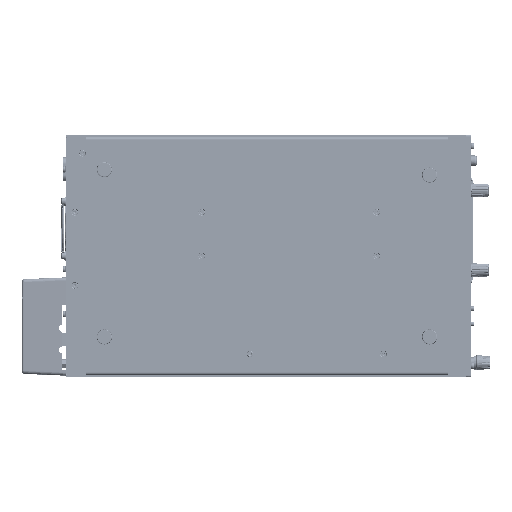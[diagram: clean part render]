
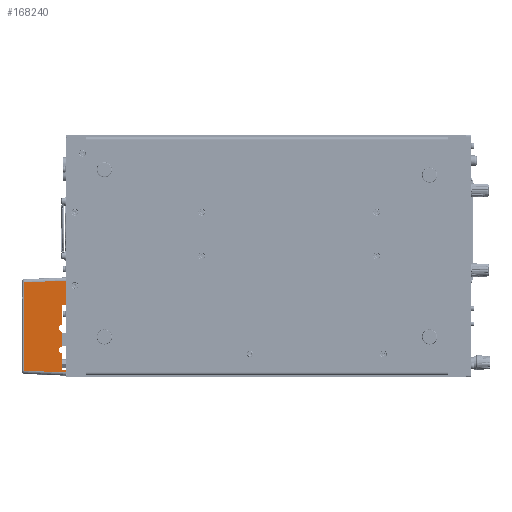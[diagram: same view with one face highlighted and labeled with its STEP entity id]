
A CAD part, front view. The second image highlights one B-rep face of the part: STEP entity #168240.
In plain terms, the highlighted planar face has unit normal (-0.044, -0.999, 0).
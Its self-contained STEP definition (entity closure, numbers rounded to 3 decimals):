
#8563=PLANE('',#178670);
#21634=FACE_OUTER_BOUND('',#31379,.T.);
#31379=EDGE_LOOP('',(#146278,#146279,#146280,#146281,#146282,#146283,#146284,
#146285,#146286,#146287,#146288,#146289,#146290,#146291,#146292,#146293));
#32362=ELLIPSE('',#178671,3.003,3.);
#32363=ELLIPSE('',#178672,3.003,3.);
#49613=LINE('',#291773,#64528);
#49614=LINE('',#291777,#64529);
#49615=LINE('',#291779,#64530);
#49616=LINE('',#291781,#64531);
#49617=LINE('',#291785,#64532);
#49618=LINE('',#291787,#64533);
#49619=LINE('',#291789,#64534);
#49620=LINE('',#291791,#64535);
#49621=LINE('',#291793,#64536);
#49622=LINE('',#291794,#64537);
#49623=LINE('',#291796,#64538);
#49624=LINE('',#291798,#64539);
#49625=LINE('',#291800,#64540);
#49626=LINE('',#291802,#64541);
#64528=VECTOR('',#212717,10.);
#64529=VECTOR('',#212720,10.);
#64530=VECTOR('',#212721,10.);
#64531=VECTOR('',#212722,10.);
#64532=VECTOR('',#212725,10.);
#64533=VECTOR('',#212726,10.);
#64534=VECTOR('',#212727,10.);
#64535=VECTOR('',#212728,10.);
#64536=VECTOR('',#212729,10.);
#64537=VECTOR('',#212730,10.);
#64538=VECTOR('',#212731,10.);
#64539=VECTOR('',#212732,10.);
#64540=VECTOR('',#212733,10.);
#64541=VECTOR('',#212734,10.);
#79918=VERTEX_POINT('',#291769);
#79919=VERTEX_POINT('',#291771);
#79920=VERTEX_POINT('',#291775);
#79921=VERTEX_POINT('',#291776);
#79922=VERTEX_POINT('',#291778);
#79923=VERTEX_POINT('',#291780);
#79924=VERTEX_POINT('',#291782);
#79925=VERTEX_POINT('',#291784);
#79926=VERTEX_POINT('',#291786);
#79927=VERTEX_POINT('',#291788);
#79928=VERTEX_POINT('',#291790);
#79929=VERTEX_POINT('',#291792);
#79930=VERTEX_POINT('',#291795);
#79931=VERTEX_POINT('',#291797);
#79932=VERTEX_POINT('',#291799);
#79933=VERTEX_POINT('',#291801);
#102425=EDGE_CURVE('',#79919,#79918,#49613,.T.);
#102426=EDGE_CURVE('',#79920,#79921,#49614,.T.);
#102427=EDGE_CURVE('',#79921,#79922,#49615,.T.);
#102428=EDGE_CURVE('',#79922,#79923,#49616,.T.);
#102429=EDGE_CURVE('',#79923,#79924,#32362,.T.);
#102430=EDGE_CURVE('',#79924,#79925,#49617,.T.);
#102431=EDGE_CURVE('',#79925,#79926,#49618,.T.);
#102432=EDGE_CURVE('',#79926,#79927,#49619,.T.);
#102433=EDGE_CURVE('',#79928,#79927,#49620,.T.);
#102434=EDGE_CURVE('',#79929,#79928,#49621,.T.);
#102435=EDGE_CURVE('',#79918,#79929,#49622,.T.);
#102436=EDGE_CURVE('',#79930,#79919,#49623,.T.);
#102437=EDGE_CURVE('',#79930,#79931,#49624,.T.);
#102438=EDGE_CURVE('',#79931,#79932,#49625,.T.);
#102439=EDGE_CURVE('',#79932,#79933,#49626,.T.);
#102440=EDGE_CURVE('',#79933,#79920,#32363,.T.);
#146278=ORIENTED_EDGE('',*,*,#102426,.T.);
#146279=ORIENTED_EDGE('',*,*,#102427,.T.);
#146280=ORIENTED_EDGE('',*,*,#102428,.T.);
#146281=ORIENTED_EDGE('',*,*,#102429,.T.);
#146282=ORIENTED_EDGE('',*,*,#102430,.T.);
#146283=ORIENTED_EDGE('',*,*,#102431,.T.);
#146284=ORIENTED_EDGE('',*,*,#102432,.T.);
#146285=ORIENTED_EDGE('',*,*,#102433,.F.);
#146286=ORIENTED_EDGE('',*,*,#102434,.F.);
#146287=ORIENTED_EDGE('',*,*,#102435,.F.);
#146288=ORIENTED_EDGE('',*,*,#102425,.F.);
#146289=ORIENTED_EDGE('',*,*,#102436,.F.);
#146290=ORIENTED_EDGE('',*,*,#102437,.T.);
#146291=ORIENTED_EDGE('',*,*,#102438,.T.);
#146292=ORIENTED_EDGE('',*,*,#102439,.T.);
#146293=ORIENTED_EDGE('',*,*,#102440,.T.);
#168240=ADVANCED_FACE('',(#21634),#8563,.T.);
#178670=AXIS2_PLACEMENT_3D('',#291774,#212718,#212719);
#178671=AXIS2_PLACEMENT_3D('',#291783,#212723,#212724);
#178672=AXIS2_PLACEMENT_3D('',#291803,#212735,#212736);
#212717=DIRECTION('',(-0.998,0.044,0.044));
#212718=DIRECTION('center_axis',(-0.044,-0.999,
0.));
#212719=DIRECTION('ref_axis',(0.,0.,
1.));
#212720=DIRECTION('',(0.998,-0.044,0.044));
#212721=DIRECTION('',(0.,0.,1.));
#212722=DIRECTION('',(-0.998,0.044,0.044));
#212723=DIRECTION('center_axis',(0.044,0.999,0.));
#212724=DIRECTION('ref_axis',(0.999,-0.044,0.));
#212725=DIRECTION('',(0.998,-0.044,0.044));
#212726=DIRECTION('',(0.,0.,1.));
#212727=DIRECTION('',(0.998,-0.044,0.044));
#212728=DIRECTION('',(0.,0.,-1.));
#212729=DIRECTION('',(0.998,-0.044,0.044));
#212730=DIRECTION('',(0.,0.,1.));
#212731=DIRECTION('',(0.,0.,-1.));
#212732=DIRECTION('',(-0.998,0.044,0.044));
#212733=DIRECTION('',(0.,0.,1.));
#212734=DIRECTION('',(-0.998,0.044,0.044));
#212735=DIRECTION('center_axis',(0.044,0.999,0.));
#212736=DIRECTION('ref_axis',(0.999,-0.044,0.));
#291769=CARTESIAN_POINT('',(-408.77,-40.82,-104.823));
#291771=CARTESIAN_POINT('',(-370.3,-42.5,-106.503));
#291773=CARTESIAN_POINT('',(-372.127,-42.42,-106.423));
#291774=CARTESIAN_POINT('Origin',(-370.3,-42.5,-19.5));
#291775=CARTESIAN_POINT('',(-373.931,-42.341,-83.104));
#291776=CARTESIAN_POINT('',(-373.3,-42.369,-83.077));
#291777=CARTESIAN_POINT('',(-369.834,-42.52,-82.925));
#291778=CARTESIAN_POINT('',(-373.3,-42.369,-69.126));
#291779=CARTESIAN_POINT('',(-373.3,-42.369,-53.189));
#291780=CARTESIAN_POINT('',(-373.931,-42.341,-69.099));
#291781=CARTESIAN_POINT('',(-374.107,-42.334,-69.091));
#291782=CARTESIAN_POINT('',(-373.931,-42.341,-63.104));
#291783=CARTESIAN_POINT('Origin',(-373.8,-42.347,-66.102));
#291784=CARTESIAN_POINT('',(-373.3,-42.369,-63.077));
#291785=CARTESIAN_POINT('',(-370.269,-42.501,-62.944));
#291786=CARTESIAN_POINT('',(-373.3,-42.369,-44.631));
#291787=CARTESIAN_POINT('',(-373.3,-42.369,-36.611));
#291788=CARTESIAN_POINT('',(-370.3,-42.5,-44.5));
#291789=CARTESIAN_POINT('',(-369.791,-42.522,-44.478));
#291790=CARTESIAN_POINT('',(-370.3,-42.5,-22.497));
#291791=CARTESIAN_POINT('',(-370.3,-42.5,-19.5));
#291792=CARTESIAN_POINT('',(-408.77,-40.82,-24.177));
#291793=CARTESIAN_POINT('',(-371.54,-42.446,-22.551));
#291794=CARTESIAN_POINT('',(-408.77,-40.82,-42.603));
#291795=CARTESIAN_POINT('',(-370.3,-42.5,-104.5));
#291796=CARTESIAN_POINT('',(-370.3,-42.5,-19.5));
#291797=CARTESIAN_POINT('',(-373.3,-42.369,-104.369));
#291798=CARTESIAN_POINT('',(-372.149,-42.419,-104.419));
#291799=CARTESIAN_POINT('',(-373.3,-42.369,-89.126));
#291800=CARTESIAN_POINT('',(-373.3,-42.369,-53.189));
#291801=CARTESIAN_POINT('',(-373.931,-42.341,-89.099));
#291802=CARTESIAN_POINT('',(-374.542,-42.315,-89.072));
#291803=CARTESIAN_POINT('Origin',(-373.8,-42.347,-86.102));
